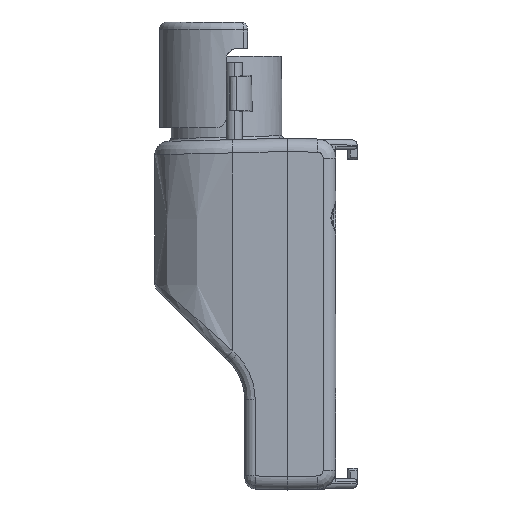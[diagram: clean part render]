
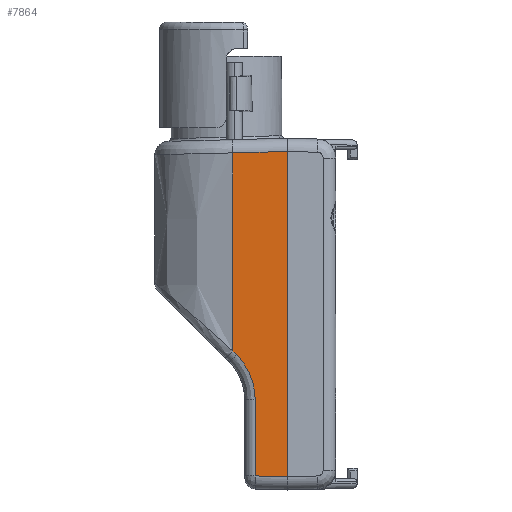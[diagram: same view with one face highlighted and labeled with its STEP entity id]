
A CAD part, left-side view. The second image highlights one B-rep face of the part: STEP entity #7864.
In plain terms, the highlighted planar face has unit normal (-1, 0.026, 0).
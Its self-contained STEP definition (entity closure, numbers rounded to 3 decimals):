
#593 = LINE ( 'NONE', #8474, #594 ) ;
#594 = VECTOR ( 'NONE', #8475, 1000. ) ;
#3306 = ORIENTED_EDGE ( 'NONE', *, *, #13316, .T. ) ;
#3375 = ORIENTED_EDGE ( 'NONE', *, *, #3826, .T. ) ;
#3380 = ORIENTED_EDGE ( 'NONE', *, *, #3821, .T. ) ;
#3464 = VERTEX_POINT ( 'NONE', #22038 ) ;
#3597 = VERTEX_POINT ( 'NONE', #22293 ) ;
#3598 = VERTEX_POINT ( 'NONE', #22295 ) ;
#3681 = VERTEX_POINT ( 'NONE', #22444 ) ;
#3682 = VERTEX_POINT ( 'NONE', #22446 ) ;
#3683 = VERTEX_POINT ( 'NONE', #22447 ) ;
#3684 = VERTEX_POINT ( 'NONE', #22449 ) ;
#3818 = EDGE_CURVE ( 'NONE', #3683, #3684, #19535, .T. ) ;
#3821 = EDGE_CURVE ( 'NONE', #3464, #3598, #17408, .T. ) ;
#3823 = EDGE_CURVE ( 'NONE', #3681, #3683, #17407, .T. ) ;
#3824 = EDGE_CURVE ( 'NONE', #3681, #3682, #17415, .T. ) ;
#3825 = EDGE_CURVE ( 'NONE', #3684, #3464, #17405, .T. ) ;
#3826 = EDGE_CURVE ( 'NONE', #3597, #3682, #17419, .T. ) ;
#7864 = ADVANCED_FACE ( 'NONE', ( #18565 ), #26942, .T. ) ;
#8474 = CARTESIAN_POINT ( 'NONE',  ( -85.07, 18.848, 33.2 ) ) ;
#8475 = DIRECTION ( 'NONE',  ( 0., 0., 1. ) ) ;
#12320 = ORIENTED_EDGE ( 'NONE', *, *, #3825, .T. ) ;
#12321 = ORIENTED_EDGE ( 'NONE', *, *, #3818, .T. ) ;
#12322 = ORIENTED_EDGE ( 'NONE', *, *, #3823, .T. ) ;
#12323 = ORIENTED_EDGE ( 'NONE', *, *, #3824, .F. ) ;
#13316 = EDGE_CURVE ( 'NONE', #3598, #3597, #593, .T. ) ;
#17385 = EDGE_LOOP ( 'NONE', ( #12323, #12322, #12321, #12320, #3380, #3306, #3375 ) ) ;
#17405 = LINE ( 'NONE', #26338, #17417 ) ;
#17407 = LINE ( 'NONE', #26334, #17414 ) ;
#17408 = LINE ( 'NONE', #26331, #17410 ) ;
#17410 = VECTOR ( 'NONE', #26335, 1000. ) ;
#17414 = VECTOR ( 'NONE', #26339, 1000. ) ;
#17415 = LINE ( 'NONE', #26341, #17416 ) ;
#17416 = VECTOR ( 'NONE', #26342, 1000. ) ;
#17417 = VECTOR ( 'NONE', #26343, 1000. ) ;
#17419 = LINE ( 'NONE', #26344, #17420 ) ;
#17420 = VECTOR ( 'NONE', #26345, 1000. ) ;
#18565 = FACE_OUTER_BOUND ( 'NONE', #17385, .T. ) ;
#18958 = AXIS2_PLACEMENT_3D ( 'NONE', #26941, #26944, #26945 ) ;
#19535 =( BOUNDED_CURVE ( )  B_SPLINE_CURVE ( 3, ( #26314, #26325, #26326, #26327 ),
 .UNSPECIFIED., .F., .T. ) 
 B_SPLINE_CURVE_WITH_KNOTS ( ( 4, 4 ),
 ( 5.498, 6.283 ),
 .UNSPECIFIED. ) 
 CURVE ( )  GEOMETRIC_REPRESENTATION_ITEM ( )  RATIONAL_B_SPLINE_CURVE ( ( 1., 0.949, 0.949, 1. ) ) 
 REPRESENTATION_ITEM ( '' )  );
#22038 = CARTESIAN_POINT ( 'NONE',  ( -84.912, 24.901, -30.542 ) ) ;
#22293 = CARTESIAN_POINT ( 'NONE',  ( -85.07, 18.848, 30.701 ) ) ;
#22295 = CARTESIAN_POINT ( 'NONE',  ( -85.07, 18.848, -30.701 ) ) ;
#22444 = CARTESIAN_POINT ( 'NONE',  ( -84.801, 29.137, -6.935 ) ) ;
#22446 = CARTESIAN_POINT ( 'NONE',  ( -84.801, 29.137, 30.431 ) ) ;
#22447 = CARTESIAN_POINT ( 'NONE',  ( -84.82, 28.415, -7.657 ) ) ;
#22449 = CARTESIAN_POINT ( 'NONE',  ( -84.912, 24.901, -16.142 ) ) ;
#26314 = CARTESIAN_POINT ( 'NONE',  ( -84.82, 28.415, -7.657 ) ) ;
#26325 = CARTESIAN_POINT ( 'NONE',  ( -84.88, 26.135, -9.937 ) ) ;
#26326 = CARTESIAN_POINT ( 'NONE',  ( -84.912, 24.901, -12.917 ) ) ;
#26327 = CARTESIAN_POINT ( 'NONE',  ( -84.912, 24.901, -16.142 ) ) ;
#26331 = CARTESIAN_POINT ( 'NONE',  ( -85.027, 20.519, -30.657 ) ) ;
#26334 = CARTESIAN_POINT ( 'NONE',  ( -84.41, 44.052, 7.979 ) ) ;
#26335 = DIRECTION ( 'NONE',  ( -0.026, -0.999, -0.026 ) ) ;
#26338 = CARTESIAN_POINT ( 'NONE',  ( -84.912, 24.901, 33.2 ) ) ;
#26339 = DIRECTION ( 'NONE',  ( -0.019, -0.707, -0.707 ) ) ;
#26341 = CARTESIAN_POINT ( 'NONE',  ( -84.801, 29.137, -40. ) ) ;
#26342 = DIRECTION ( 'NONE',  ( 0., 0., 1. ) ) ;
#26343 = DIRECTION ( 'NONE',  ( 0., 0., -1. ) ) ;
#26344 = CARTESIAN_POINT ( 'NONE',  ( -85.072, 18.783, 30.703 ) ) ;
#26345 = DIRECTION ( 'NONE',  ( 0.026, 0.999, -0.026 ) ) ;
#26941 = CARTESIAN_POINT ( 'NONE',  ( -85.07, 18.848, 33.2 ) ) ;
#26942 = PLANE ( 'NONE',  #18958 ) ;
#26944 = DIRECTION ( 'NONE',  ( -1., 0.026, 0. ) ) ;
#26945 = DIRECTION ( 'NONE',  ( -0.026, -1., 0. ) ) ;
